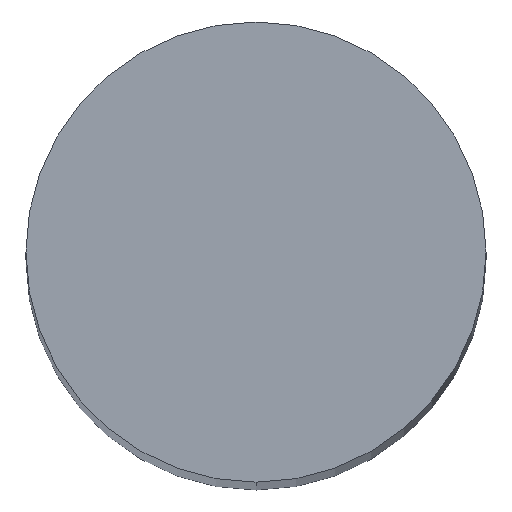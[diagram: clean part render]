
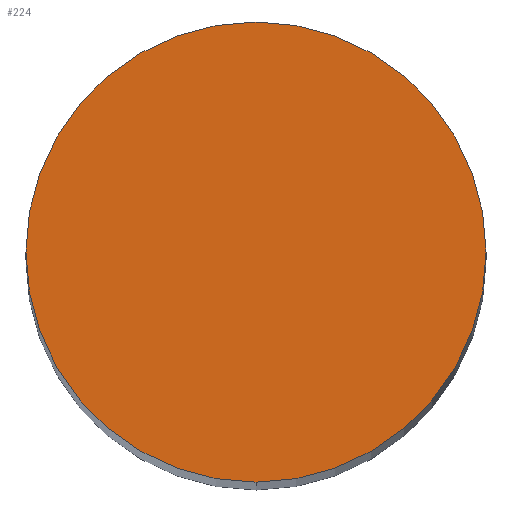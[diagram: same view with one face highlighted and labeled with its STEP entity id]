
A CAD part, top view. The second image highlights one B-rep face of the part: STEP entity #224.
In plain terms, the highlighted planar face has unit normal (0, 0, 1).
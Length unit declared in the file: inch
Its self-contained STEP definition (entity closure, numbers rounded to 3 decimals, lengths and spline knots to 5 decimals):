
#165=CARTESIAN_POINT('',(0.0,-0.0625,1.5));
#166=VERTEX_POINT('',#165);
#173=CARTESIAN_POINT('',(0.0,0.0625,1.5));
#174=VERTEX_POINT('',#173);
#175=CARTESIAN_POINT('',(0.0,0.0,1.5));
#176=DIRECTION('',(0.0,-0.0,-1.0));
#177=DIRECTION('',(0.0,1.0,-0.0));
#178=AXIS2_PLACEMENT_3D('',#175,#176,#177);
#179=CIRCLE('',#178,0.0625);
#180=EDGE_CURVE('no 1476',#166,#174,#179,.T.);
#200=CARTESIAN_POINT('',(0.0,0.0,1.5));
#201=DIRECTION('',(0.0,-0.0,-1.0));
#202=DIRECTION('',(0.0,1.0,-0.0));
#203=AXIS2_PLACEMENT_3D('',#200,#201,#202);
#204=CIRCLE('',#203,0.0625);
#205=EDGE_CURVE('no 1480',#174,#166,#204,.T.);
#215=ORIENTED_EDGE('',*,*,#180,.F.);
#216=ORIENTED_EDGE('',*,*,#205,.F.);
#217=EDGE_LOOP('',(#215,#216));
#218=FACE_OUTER_BOUND('',#217,.T.);
#219=CARTESIAN_POINT('',(0.0625,0.0,1.5));
#220=DIRECTION('',(0.0,0.0,1.0));
#221=DIRECTION('',(0.0,-1.0,0.0));
#222=AXIS2_PLACEMENT_3D('',#219,#220,#221);
#223=PLANE('',#222);
#224=ADVANCED_FACE('no 1590',(#218),#223,.T.);
